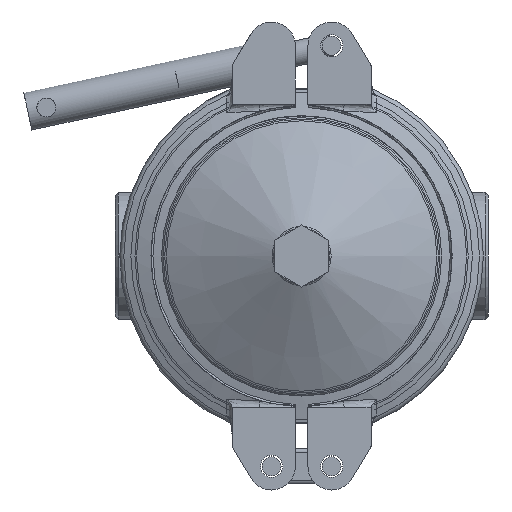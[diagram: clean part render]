
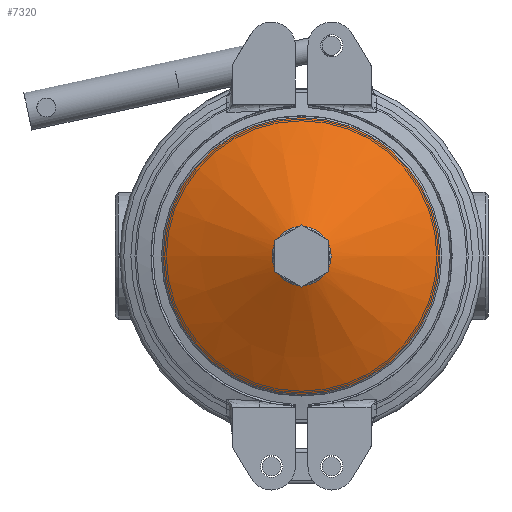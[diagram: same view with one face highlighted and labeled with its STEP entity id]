
A CAD part, front view. The second image highlights one B-rep face of the part: STEP entity #7320.
In plain terms, the highlighted conical face has half-angle 62.25 degrees and reference radius 26.55 mm.
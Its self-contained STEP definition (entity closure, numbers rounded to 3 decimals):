
#36=CONICAL_SURFACE($,#7968,26.55,62.25);
#1696=FACE_BOUND($,#2572,.T.);
#2076=FACE_OUTER_BOUND($,#2571,.T.);
#2571=EDGE_LOOP($,(#6770));
#2572=EDGE_LOOP($,(#6771));
#2888=CIRCLE($,#7967,43.766);
#2889=CIRCLE($,#7969,9.334);
#3620=VERTEX_POINT($,#17622);
#3621=VERTEX_POINT($,#17625);
#4674=EDGE_CURVE($,#3620,#3620,#2888,.T.);
#4675=EDGE_CURVE($,#3621,#3621,#2889,.T.);
#6770=ORIENTED_EDGE($,*,*,#4674,.T.);
#6771=ORIENTED_EDGE($,*,*,#4675,.F.);
#7320=ADVANCED_FACE($,(#2076,#1696),#36,.T.);
#7967=AXIS2_PLACEMENT_3D($,#17623,#9711,#9712);
#7968=AXIS2_PLACEMENT_3D($,#17624,#9713,#9714);
#7969=AXIS2_PLACEMENT_3D($,#17626,#9715,#9716);
#9711=DIRECTION('center_axis',(0.,-1.,0.));
#9712=DIRECTION('ref_axis',(1.,0.,0.));
#9713=DIRECTION('center_axis',(0.,1.,0.));
#9714=DIRECTION('ref_axis',(1.,0.,0.));
#9715=DIRECTION('center_axis',(0.,-1.,0.));
#9716=DIRECTION('ref_axis',(1.,0.,0.));
#17622=CARTESIAN_POINT('',(43.766,-567.885,0.));
#17623=CARTESIAN_POINT('Origin',(0.,-567.885,0.));
#17624=CARTESIAN_POINT('Origin',(0.,-576.942,0.));
#17625=CARTESIAN_POINT('',(9.334,-586.,0.));
#17626=CARTESIAN_POINT('Origin',(0.,-586.,0.));
